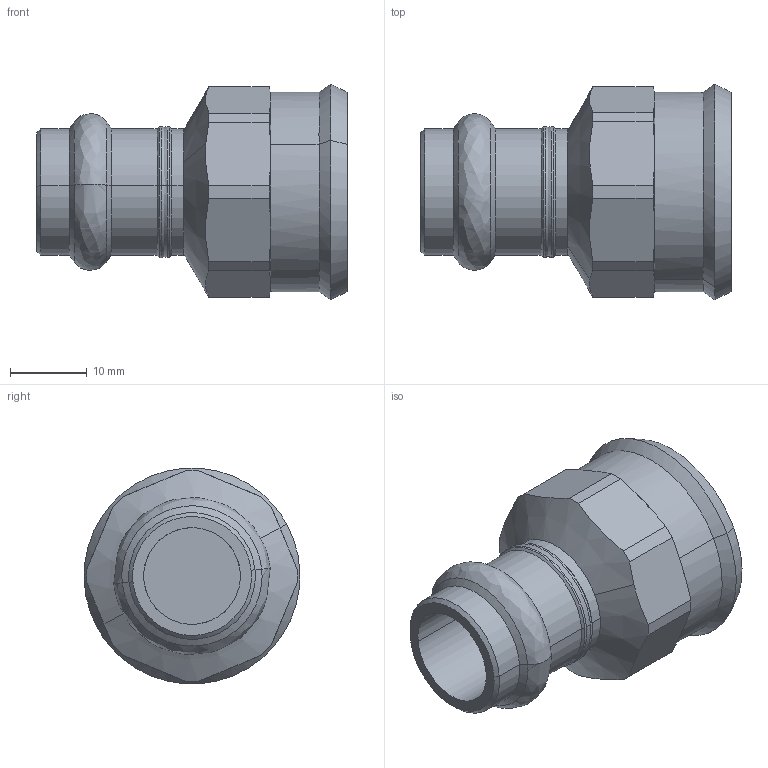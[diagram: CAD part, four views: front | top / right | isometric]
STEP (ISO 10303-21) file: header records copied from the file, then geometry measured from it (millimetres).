
FILE_DESCRIPTION(('STEP AP214'),'1');
FILE_NAME('pim0004664.stp','2015-05-04T05:29:14',('Cad-Pim'),('TransMagic, Inc.'),'TMR11sp0','TransMagic R11',' ');
FILE_SCHEMA(('AUTOMOTIVE_DESIGN'));
Length unit declared in the file: millimetre
Products named in the file (1): pim0004664
Bounding box: 40.5 x 28.15 x 28.09 mm (x, y, z)
Volume: 9413 mm3; surface area: 5424.6 mm2
Topology: 1 solids, 1 shells, 68 faces, 175 edges, 111 vertices
Faces by surface type: cone 24, bspline 22, cylinder 22
Entity records: 3342 total; most frequent: CARTESIAN_POINT 1419, ORIENTED_EDGE 350, DIRECTION 192, EDGE_CURVE 175, VERTEX_POINT 111, AXIS2_PLACEMENT_3D 81, B_SPLINE_CURVE_WITH_KNOTS 78, EDGE_LOOP 70
